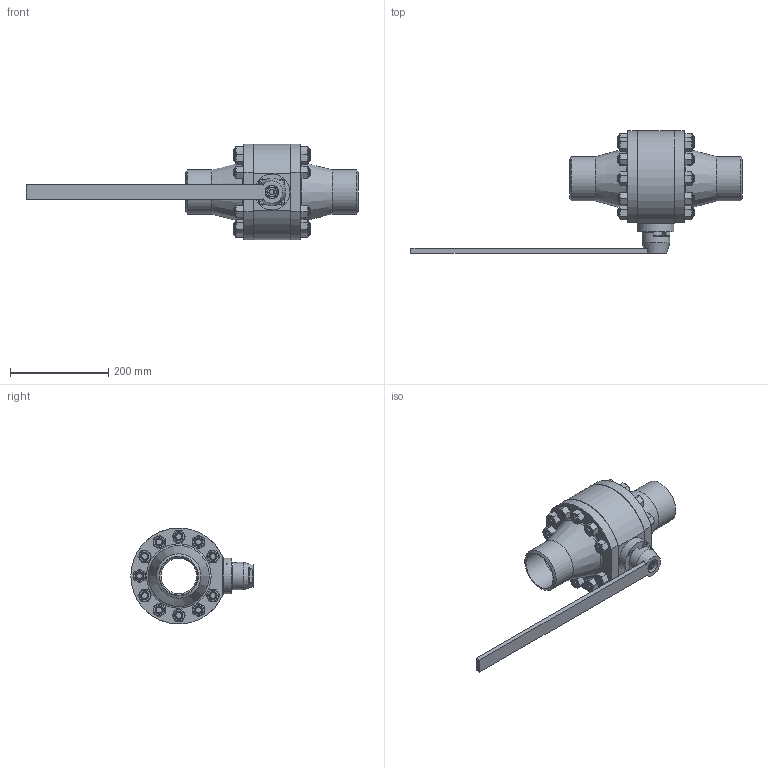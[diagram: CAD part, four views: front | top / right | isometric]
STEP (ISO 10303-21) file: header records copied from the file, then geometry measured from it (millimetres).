
FILE_DESCRIPTION(('STEP AP203'), '1');
FILE_NAME('ZARD 080.063.40.P.stp', '2013-12-06T11:30:24', ('Ñèçîâ À.Í.'), ('ÎÎÎ "ÈÊ Ýíåðïðåä-ßðäîñ"'), 'ASCON STEP Converter 1.3', 'Kompas 3D', '');
FILE_SCHEMA(('CONFIG_CONTROL_DESIGN','SUPPORT_RESOURCE_SCHEMA'));
Length unit declared in the file: millimetre
Products named in the file (1): 270
Bounding box: 675 x 248.5 x 194.94 mm (x, y, z)
Volume: 3464625.5 mm3; surface area: 494521.1 mm2
Topology: 1 solids, 17 shells, 601 faces, 1291 edges, 816 vertices
Faces by surface type: plane 326, cone 151, cylinder 115, torus 9
Full cylindrical faces by diameter (mm): 8 x6, 9 x4, 12 x2, 12.2 x4, 13 x4, 14 x4, 16 x44, 18 x11, 22.5 x1, 24.8 x1, 25 x1, 26 x1, 28 x1, 35 x1, 35.5 x1, 56 x1, 72 x2, 73 x1, 78 x2, 90 x2, 120 x1
Entity records: 27828 total; most frequent: CARTESIAN_POINT 14875, DIRECTION 2634, ORIENTED_EDGE 2582, EDGE_CURVE 1291, AXIS2_PLACEMENT_3D 1042, VERTEX_POINT 816, EDGE_LOOP 713, ADVANCED_FACE 601
